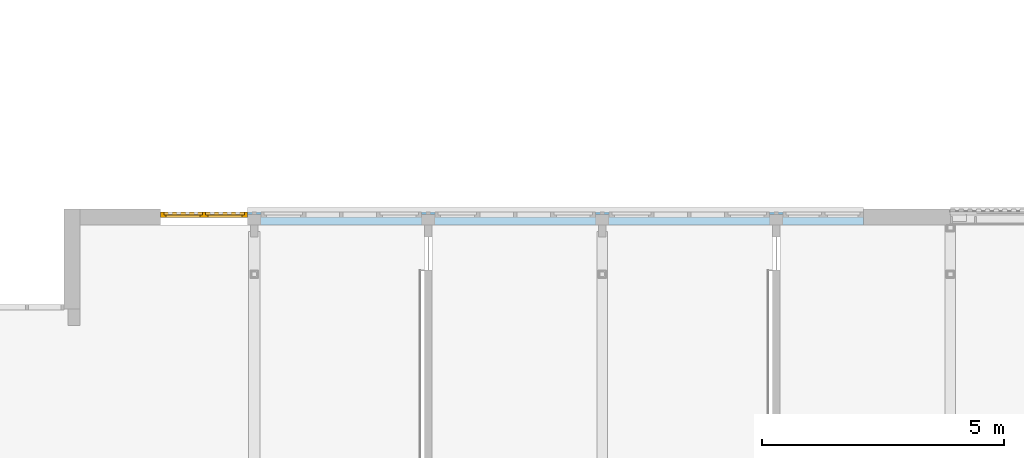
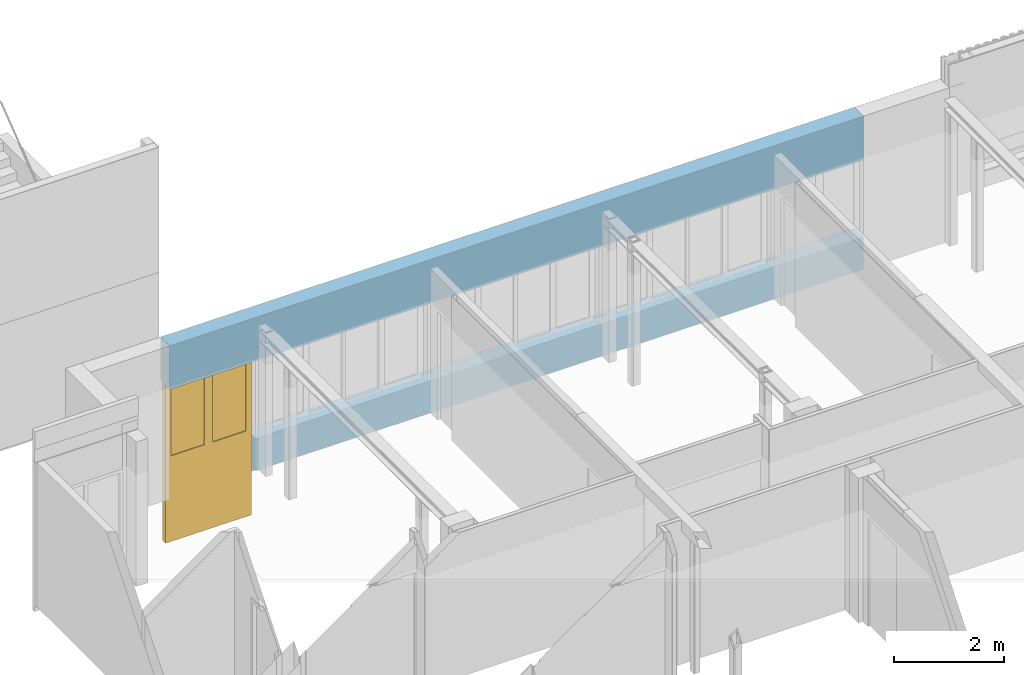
# One storey, part 32 of 99: 1 window, 5 openings, plus 1 element that does not belong to this part.
"""IFC2X3 building model written with IfcOpenShell, lengths in millimetres."""

from ifc_helpers import new_model, entity, si_unit, converted_unit, derived_unit, money_unit, direction, frame, origin_with_axes, place, context, subcontext, project, spatial, open_shell, faceted_brep, surface_model, material, type_object, element, fill, save


model = new_model("IFC2X3")

# Units and contexts
model_context = context("Model", 3, precision=0.01, world=origin_with_axes(), true_north=direction((0.0, 1.0)))
body_context = subcontext(model_context, "Body", "Model", "MODEL_VIEW")
ifc_project = project(units=[si_unit("LENGTHUNIT", "METRE", prefix="MILLI"), si_unit("AREAUNIT", "SQUARE_METRE"), si_unit("VOLUMEUNIT", "CUBIC_METRE"), converted_unit("PLANEANGLEUNIT", "DEGREE", entity("IfcPlaneAngleMeasure", 0.0174532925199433), si_unit("PLANEANGLEUNIT", "RADIAN"), dimensions=[0, 0, 0, 0, 0, 0, 0]), money_unit("EUR"), converted_unit("TIMEUNIT", "Year", entity("IfcTimeMeasure", 31557600.0), si_unit("TIMEUNIT", "SECOND"), dimensions=[0, 0, 1, 0, 0, 0, 0]), si_unit("MASSUNIT", "GRAM", prefix="KILO"), si_unit("THERMODYNAMICTEMPERATUREUNIT", "DEGREE_CELSIUS"), si_unit("LUMINOUSINTENSITYUNIT", "LUMEN"), si_unit("ENERGYUNIT", "JOULE", prefix="MEGA"), derived_unit("THERMALCONDUCTANCEUNIT", [(si_unit("POWERUNIT", "WATT"), 1), (si_unit("LENGTHUNIT", "METRE"), -1), (si_unit("THERMODYNAMICTEMPERATUREUNIT", "KELVIN"), -1)]), derived_unit("SPECIFICHEATCAPACITYUNIT", [(si_unit("ENERGYUNIT", "JOULE"), 1), (si_unit("MASSUNIT", "GRAM", prefix="KILO"), -1), (si_unit("THERMODYNAMICTEMPERATUREUNIT", "KELVIN"), -1)]), derived_unit("MASSDENSITYUNIT", [(si_unit("MASSUNIT", "GRAM", prefix="KILO"), 1), (si_unit("VOLUMEUNIT", "CUBIC_METRE"), -1)])], contexts=[model_context])

# Site, building, storey
site_placement = place(None, origin_with_axes())
site = spatial("IfcSite", under=ifc_project, at=site_placement, Name="Site", CompositionType="ELEMENT")
building_placement = place(site_placement, origin_with_axes())
building = spatial("IfcBuilding", under=site, at=building_placement, Name="Naam gebouw", CompositionType="ELEMENT")
storey_placement = place(building_placement, frame((0.0, 0.0, 7650.0), z_axis=(0.0, 0.0, 1.0), x_axis=(1.0, 0.0, 0.0)))
storey = spatial("IfcBuildingStorey", under=building, at=storey_placement, Name="2e verdieping N", CompositionType="ELEMENT", Elevation=7650.0)

# Wall, openings, window
ifc_material = material(Name="ALG - CONSTRUCTIEF")
wall_type = type_object("IfcWallType", Name="ALG - CONSTRUCTIEF 330", PredefinedType="NOTDEFINED")
wall_placement = place(storey_placement, frame((48601.18090496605, 27505.91242510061, -99.99999999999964), z_axis=(0.0, 0.0, 1.0), x_axis=(-1.0, 0.0, 0.0)))
wall = element("IfcWall", 1, at=wall_placement, inside=storey, type_object=wall_type, material=ifc_material, Name="_Wand-x", context=body_context, shape_type="Brep", body=[
    faceted_brep([(12738.68090496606, -259.9999999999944, 0.0), (12738.68090496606, -146.0000000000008, 0.0), (12738.68090496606, -146.0000000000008, 99.99999999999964), (12738.68090496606, -145.9999999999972, 820.0000000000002), (12738.68090496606, 0.0, 820.0000000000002), (12738.68090496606, -216.0000000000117, 820.0000000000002), (12738.68090496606, -259.9999999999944, 820.0000000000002), (12738.68090496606, -329.9999999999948, 820.0000000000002), (12738.68090496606, -329.9999999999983, 0.0), (0.0, -329.9999999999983, 0.0), (0.0, -145.6834109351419, 0.0), (0.0, -145.6834109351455, 99.99999999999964), (12738.68090496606, 0.0, 99.99999999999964), (0.0, 0.0, 820.0000000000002), (0.0, -329.9999999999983, 820.0000000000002), (12463.68090496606, -259.9999999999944, 820.0000000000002), (12463.68090496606, -216.0000000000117, 820.0000000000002), (1938.680904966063, -216.0000000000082, 820.0000000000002), (1938.680904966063, -259.999999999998, 820.0000000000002), (1663.680904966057, -259.999999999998, 820.0000000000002), (1663.680904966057, -216.0000000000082, 820.0000000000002), (5538.680904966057, -216.0000000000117, 820.0000000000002), (5538.680904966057, -259.999999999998, 820.0000000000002), (5263.680904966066, -259.999999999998, 820.0000000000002), (5263.680904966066, -216.0000000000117, 820.0000000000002), (8863.68090496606, -259.999999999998, 820.0000000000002), (8863.68090496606, -216.0000000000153, 820.0000000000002), (9138.680904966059, -216.0000000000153, 820.0000000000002), (9138.680904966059, -259.999999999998, 820.0000000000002), (0.0, 0.0, 99.99999999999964)], [[[0, 1, 2, 3, 4, 5, 6, 7, 8]], [[1, 0, 8, 9, 10]], [[2, 1, 10, 11]], [[3, 2, 12, 4]], [[5, 4, 13, 14, 7, 6, 15, 16], [17, 18, 19, 20], [21, 22, 23, 24], [25, 26, 27, 28]], [[6, 5, 16, 15]], [[7, 14, 9, 8]], [[13, 29, 11, 10, 9, 14]], [[2, 11, 29, 12]], [[29, 13, 4, 12]], [[18, 17, 20, 19]], [[22, 21, 24, 23]], [[26, 25, 28, 27]]]),
    faceted_brep([(12738.68090496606, -216.0000000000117, 2539.999999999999), (12738.68090496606, -259.9999999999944, 2539.999999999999), (12463.68090496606, -259.9999999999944, 2540.000000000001), (12463.68090496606, -216.0000000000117, 2540.000000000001), (12738.68090496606, 0.0, 2539.999999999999), (14538.68090496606, 0.0, 2539.999999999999), (14538.68090496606, -259.9999999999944, 2539.999999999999), (14538.68090496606, -329.9999999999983, 2539.999999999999), (0.0, -329.9999999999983, 2540.000000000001), (0.0, 0.0, 2540.000000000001), (1938.680904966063, -259.999999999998, 2540.000000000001), (1938.680904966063, -216.0000000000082, 2540.000000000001), (1663.680904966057, -216.0000000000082, 2540.000000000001), (1663.680904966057, -259.999999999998, 2540.000000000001), (5538.680904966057, -216.0000000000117, 2540.000000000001), (5263.680904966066, -216.0000000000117, 2540.000000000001), (5263.680904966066, -259.999999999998, 2540.000000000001), (5538.680904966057, -259.999999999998, 2540.000000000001), (8863.68090496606, -259.999999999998, 2540.000000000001), (9138.680904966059, -259.999999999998, 2540.000000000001), (9138.680904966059, -216.0000000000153, 2540.000000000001), (8863.68090496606, -216.0000000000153, 2540.000000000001), (0.0, 0.0, 3500.0), (14538.68090496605, 0.0, 3500.0), (14538.68090496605, -329.9999999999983, 3500.0), (0.0, -329.9999999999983, 3500.0)], [[[0, 1, 2, 3]], [[4, 5, 6, 7, 8, 9], [10, 11, 12, 13], [14, 15, 16, 17], [18, 19, 20, 21], [0, 3, 2, 1]], [[5, 4, 9, 22, 23]], [[6, 5, 23, 24, 7]], [[24, 25, 8, 7]], [[25, 22, 9, 8]], [[11, 10, 13, 12]], [[14, 17, 16, 15]], [[18, 21, 20, 19]], [[23, 22, 25, 24]]]),
])
opening_1_placement = place(wall_placement, frame((3601.180904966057, 0.0, 820.0000000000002), z_axis=(0.0, 0.0, 1.0), x_axis=(1.0, 0.0, 0.0)))
element("IfcOpeningElement", 2, at=opening_1_placement, cuts=wall, Name="_Merk-052", context=body_context, shape_type="Brep", body=[
    faceted_brep([(1937.5, -259.999999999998, 0.0), (1937.5, -259.999999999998, 1720.000000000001), (1937.5, -331.0000000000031, 1720.000000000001), (1937.5, -331.0000000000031, 0.0), (1937.5, 1.000000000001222, 0.0), (1937.5, 1.000000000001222, 1720.000000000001), (-1937.5, -259.999999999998, 1720.000000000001), (-1937.5, -331.0000000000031, 1720.000000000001), (-1937.5, 1.000000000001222, 1720.000000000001), (-1937.5, -331.0000000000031, 0.0), (-1937.5, -259.999999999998, 0.0), (-1937.5, 1.000000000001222, 0.0)], [[[0, 1, 2, 3]], [[1, 0, 4, 5]], [[6, 7, 2, 1, 5, 8]], [[7, 9, 3, 2]], [[0, 3, 9, 10, 11, 4]], [[5, 4, 11, 8]], [[6, 10, 9, 7]], [[10, 6, 8, 11]]]),
])
opening_2_placement = place(wall_placement, frame((831.8404524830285, 0.0, 820.0000000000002), z_axis=(0.0, 0.0, 1.0), x_axis=(1.0, 0.0, 0.0)))
element("IfcOpeningElement", 3, at=opening_2_placement, cuts=wall, Name="_Merk-051", context=body_context, shape_type="Brep", body=[
    faceted_brep([(831.8404524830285, -259.999999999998, 0.0), (831.8404524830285, -259.999999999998, 1720.000000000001), (831.8404524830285, -331.0000000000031, 1720.000000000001), (831.8404524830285, -331.0000000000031, 0.0), (831.8404524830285, 1.000000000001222, 0.0), (831.8404524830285, 1.000000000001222, 1720.000000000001), (-831.8404524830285, -259.999999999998, 1720.000000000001), (-831.8404524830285, -331.0000000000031, 1720.000000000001), (-831.8404524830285, 1.000000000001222, 1720.000000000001), (-831.8404524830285, -331.0000000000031, 0.0), (-831.8404524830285, -259.999999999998, 0.0), (-831.8404524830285, 1.000000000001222, 0.0)], [[[0, 1, 2, 3]], [[1, 0, 4, 5]], [[6, 7, 2, 1, 5, 8]], [[7, 9, 3, 2]], [[0, 3, 9, 10, 11, 4]], [[5, 4, 11, 8]], [[6, 10, 9, 7]], [[10, 6, 8, 11]]]),
])
opening_3_placement = place(wall_placement, frame((7201.180904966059, 0.0, 820.0000000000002), z_axis=(0.0, 0.0, 1.0), x_axis=(1.0, 0.0, 0.0)))
element("IfcOpeningElement", 4, at=opening_3_placement, cuts=wall, Name="_Merk-052", context=body_context, shape_type="Brep", body=[
    faceted_brep([(1937.5, -259.999999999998, 0.0), (1937.5, -259.999999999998, 1720.000000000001), (1937.5, -331.0000000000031, 1720.000000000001), (1937.5, -331.0000000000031, 0.0), (1937.5, 1.000000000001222, 0.0), (1937.5, 1.000000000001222, 1720.000000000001), (-1937.5, -259.999999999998, 1720.000000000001), (-1937.5, -331.0000000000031, 1720.000000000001), (-1937.5, 1.000000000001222, 1720.000000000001), (-1937.5, -331.0000000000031, 0.0), (-1937.5, -259.999999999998, 0.0), (-1937.5, 1.000000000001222, 0.0)], [[[0, 1, 2, 3]], [[1, 0, 4, 5]], [[6, 7, 2, 1, 5, 8]], [[7, 9, 3, 2]], [[0, 3, 9, 10, 11, 4]], [[5, 4, 11, 8]], [[6, 10, 9, 7]], [[10, 6, 8, 11]]]),
])
opening_4_placement = place(wall_placement, frame((13638.68090496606, 0.0, -960.0000000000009), z_axis=(0.0, 0.0, 1.0), x_axis=(1.0, 0.0, 0.0)))
opening_4 = element("IfcOpeningElement", 5, at=opening_4_placement, cuts=wall, Name="_Merk-051", context=body_context, shape_type="Brep", body=[
    faceted_brep([(899.9999999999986, -259.9999999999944, -1060.0), (899.9999999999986, -259.9999999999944, 3500.0), (899.9999999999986, -330.9999999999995, 3500.0), (899.9999999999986, -330.9999999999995, -1060.0), (899.9999999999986, 1.000000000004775, -1060.0), (899.9999999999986, 1.000000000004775, 3500.0), (-899.9999999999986, -259.9999999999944, 3500.0), (-899.9999999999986, -330.9999999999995, 3500.0), (-899.9999999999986, 1.000000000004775, 3500.0), (-899.9999999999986, -330.9999999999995, -1060.0), (-899.9999999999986, -259.9999999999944, -1060.0), (-899.9999999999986, 1.000000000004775, -1060.0)], [[[0, 1, 2, 3]], [[1, 0, 4, 5]], [[6, 7, 2, 1, 5, 8]], [[7, 9, 3, 2]], [[0, 3, 9, 10, 11, 4]], [[5, 4, 11, 8]], [[6, 10, 9, 7]], [[10, 6, 8, 11]]]),
])
opening_5_placement = place(wall_placement, frame((10801.18090496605, 0.0, 820.0000000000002), z_axis=(0.0, 0.0, 1.0), x_axis=(1.0, 0.0, 0.0)))
element("IfcOpeningElement", 6, at=opening_5_placement, cuts=wall, Name="_Merk-052", context=body_context, shape_type="Brep", body=[
    faceted_brep([(1937.5, -259.9999999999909, 0.0), (1937.5, -259.9999999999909, 1720.000000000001), (1937.5, -330.999999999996, 1720.000000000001), (1937.5, -330.999999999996, 0.0), (1937.5, 1.000000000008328, 0.0), (1937.5, 1.000000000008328, 1720.000000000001), (-1937.5, -259.9999999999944, 1720.000000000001), (-1937.5, -330.9999999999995, 1720.000000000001), (-1937.5, 1.000000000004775, 1720.000000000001), (-1937.5, -330.9999999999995, 0.0), (-1937.5, -259.9999999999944, 0.0), (-1937.5, 1.000000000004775, 0.0)], [[[0, 1, 2, 3]], [[1, 0, 4, 5]], [[6, 7, 2, 1, 5, 8]], [[7, 9, 3, 2]], [[0, 3, 9, 10, 11, 4]], [[5, 4, 11, 8]], [[6, 10, 9, 7]], [[10, 6, 8, 11]]]),
])
window_style = type_object("IfcWindowStyle", Name="R2 bl ol 26", ConstructionType="NOTDEFINED", OperationType="USERDEFINED", ParameterTakesPrecedence=False, Sizeable=False)
window_placement = place(opening_4_placement, frame((-899.9999999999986, 0.0, 0.0), z_axis=(0.0, 0.0, 1.0), x_axis=(1.0, 0.0, 0.0)))
window = element("IfcWindow", 7, at=window_placement, inside=storey, type_object=window_style, Name="_Merk-051", ObjectType="WINDOW", OverallHeight=3500.0, OverallWidth=1800.0, context=body_context, shape_type="SurfaceModel", body=[
    faceted_brep([(1750.0, -145.9999999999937, 3433.0), (1750.0, -199.9999999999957, 3433.0), (1732.999999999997, -199.9999999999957, 3433.0), (1732.999999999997, -259.9999999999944, 3433.0), (1799.999999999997, -259.9999999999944, 3433.0), (1799.999999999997, -145.9999999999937, 3433.0), (1750.0, -145.9999999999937, 1830.000000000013), (1750.0, -199.9999999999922, 1830.000000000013), (1732.999999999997, -199.9999999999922, 1847.000000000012), (1732.999999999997, -199.9999999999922, 1830.000000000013), (1732.999999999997, -259.9999999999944, 1847.000000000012), (1732.999999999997, -259.9999999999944, 1780.000000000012), (1732.999999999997, -259.9999999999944, 67.00000000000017), (1799.999999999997, -259.9999999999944, 67.00000000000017), (1799.999999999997, -145.9999999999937, 67.00000000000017), (1732.999999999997, -145.9999999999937, 67.00000000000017), (1732.999999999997, -145.9999999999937, 1780.000000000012), (1732.999999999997, -145.9999999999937, 1830.000000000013)], [[[0, 1, 2, 3, 4, 5]], [[1, 0, 6, 7]], [[8, 2, 1, 7, 9]], [[2, 8, 10, 3]], [[10, 11, 12, 13, 4, 3]], [[5, 4, 13, 14]], [[6, 0, 5, 14, 15, 16, 17]], [[6, 17, 9, 7]], [[9, 17, 16, 11, 10, 8]], [[15, 12, 11, 16]], [[14, 13, 12, 15]]]),
    faceted_brep([(67.00000000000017, -199.9999999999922, 3433.0), (49.99999999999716, -199.9999999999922, 3433.0), (49.99999999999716, -145.9999999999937, 3433.0), (0.0, -145.9999999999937, 3433.0), (0.0, -259.9999999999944, 3433.0), (67.00000000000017, -259.9999999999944, 3433.0), (67.00000000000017, -199.9999999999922, 1847.000000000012), (67.00000000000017, -199.9999999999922, 1830.000000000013), (49.99999999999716, -199.9999999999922, 1830.000000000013), (49.99999999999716, -145.9999999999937, 1830.000000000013), (67.00000000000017, -145.9999999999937, 1830.000000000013), (67.00000000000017, -145.9999999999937, 1780.000000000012), (67.00000000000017, -145.9999999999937, 67.00000000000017), (0.0, -145.9999999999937, 67.00000000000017), (0.0, -259.9999999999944, 67.00000000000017), (67.00000000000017, -259.9999999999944, 67.00000000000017), (67.00000000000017, -259.9999999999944, 1780.000000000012), (67.00000000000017, -259.9999999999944, 1847.000000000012)], [[[0, 1, 2, 3, 4, 5]], [[1, 0, 6, 7, 8]], [[9, 2, 1, 8]], [[9, 10, 11, 12, 13, 3, 2]], [[13, 14, 4, 3]], [[14, 15, 16, 17, 5, 4]], [[6, 0, 5, 17]], [[7, 6, 17, 16, 11, 10]], [[10, 9, 8, 7]], [[11, 16, 15, 12]], [[12, 15, 14, 13]]]),
    faceted_brep([(933.5000000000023, -199.9999999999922, 3433.0), (916.4999999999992, -199.9999999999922, 3433.0), (916.4999999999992, -145.9999999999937, 3433.0), (883.499999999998, -145.9999999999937, 3433.0), (883.499999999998, -199.9999999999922, 3433.0), (866.500000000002, -199.9999999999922, 3433.0), (866.500000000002, -259.9999999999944, 3433.0), (933.5000000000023, -259.9999999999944, 3433.0), (933.5000000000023, -199.9999999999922, 1847.000000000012), (933.4999999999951, -199.9999999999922, 1830.000000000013), (916.4999999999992, -199.9999999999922, 1830.000000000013), (916.4999999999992, -145.9999999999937, 1830.000000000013), (933.5000000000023, -145.9999999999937, 1830.000000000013), (933.5000000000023, -145.9999999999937, 1780.000000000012), (933.5000000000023, -145.9999999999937, 67.00000000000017), (866.500000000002, -145.9999999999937, 67.00000000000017), (866.500000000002, -145.9999999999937, 1780.000000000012), (866.500000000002, -145.9999999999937, 1830.000000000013), (883.499999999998, -145.9999999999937, 1830.000000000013), (883.499999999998, -199.9999999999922, 1830.000000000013), (866.500000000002, -199.9999999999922, 1847.000000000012), (866.500000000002, -199.9999999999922, 1830.000000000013), (866.500000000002, -259.9999999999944, 1847.000000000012), (933.5000000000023, -259.9999999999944, 1780.000000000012), (933.5000000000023, -259.9999999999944, 1847.000000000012), (866.500000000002, -259.9999999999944, 1780.000000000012), (866.500000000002, -259.9999999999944, 67.00000000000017), (933.5000000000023, -259.9999999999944, 67.00000000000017)], [[[0, 1, 2, 3, 4, 5, 6, 7]], [[1, 0, 8, 9, 10]], [[11, 2, 1, 10]], [[11, 12, 13, 14, 15, 16, 17, 18, 3, 2]], [[4, 3, 18, 19]], [[20, 5, 4, 19, 21]], [[5, 20, 22, 6]], [[23, 24, 7, 6, 22, 25, 26, 27]], [[8, 0, 7, 24]], [[9, 8, 24, 23, 13, 12]], [[12, 11, 10, 9]], [[13, 23, 27, 14]], [[14, 27, 26, 15]], [[15, 26, 25, 16]], [[21, 17, 16, 25, 22, 20]], [[18, 17, 21, 19]]]),
    faceted_brep([(866.500000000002, -199.9999999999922, 1847.000000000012), (67.00000000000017, -199.9999999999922, 1847.000000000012), (67.00000000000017, -259.9999999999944, 1847.000000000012), (866.500000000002, -259.9999999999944, 1847.000000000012), (67.00000000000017, -199.9999999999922, 1830.000000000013), (866.500000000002, -199.9999999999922, 1830.000000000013), (67.00000000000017, -145.9999999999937, 1830.000000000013), (67.00000000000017, -145.9999999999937, 1780.000000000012), (67.00000000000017, -259.9999999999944, 1780.000000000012), (866.500000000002, -259.9999999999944, 1780.000000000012), (866.500000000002, -145.9999999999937, 1780.000000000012), (866.500000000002, -145.9999999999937, 1830.000000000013)], [[[0, 1, 2, 3]], [[4, 1, 0, 5]], [[4, 6, 7, 8, 2, 1]], [[9, 3, 2, 8]], [[5, 0, 3, 9, 10, 11]], [[11, 6, 4, 5]], [[6, 11, 10, 7]], [[10, 9, 8, 7]]]),
    faceted_brep([(1732.999999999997, -199.9999999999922, 1847.000000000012), (933.5000000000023, -199.9999999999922, 1847.000000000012), (933.5000000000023, -259.9999999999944, 1847.000000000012), (1732.999999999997, -259.9999999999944, 1847.000000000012), (933.4999999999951, -199.9999999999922, 1830.000000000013), (1732.999999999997, -199.9999999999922, 1830.000000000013), (933.5000000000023, -145.9999999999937, 1830.000000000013), (933.5000000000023, -145.9999999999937, 1780.000000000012), (933.5000000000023, -259.9999999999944, 1780.000000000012), (1732.999999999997, -259.9999999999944, 1780.000000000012), (1732.999999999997, -145.9999999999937, 1780.000000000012), (1732.999999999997, -145.9999999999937, 1830.000000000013)], [[[0, 1, 2, 3]], [[4, 1, 0, 5]], [[4, 6, 7, 8, 2, 1]], [[2, 8, 9, 3]], [[5, 0, 3, 9, 10, 11]], [[11, 6, 4, 5]], [[6, 11, 10, 7]], [[10, 9, 8, 7]]]),
    faceted_brep([(1750.0, -145.9999999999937, 3433.0), (1750.0, -145.9999999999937, 3449.999999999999), (916.4999999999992, -145.9999999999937, 3449.999999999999), (916.4999999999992, -145.9999999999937, 3433.0), (883.499999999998, -145.9999999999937, 3433.0), (883.499999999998, -145.9999999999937, 3449.999999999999), (49.99999999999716, -145.9999999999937, 3449.999999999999), (49.99999999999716, -145.9999999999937, 3433.0), (0.0, -145.9999999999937, 3433.0), (0.0, -145.9999999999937, 3500.0), (1799.999999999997, -145.9999999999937, 3500.0), (1799.999999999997, -145.9999999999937, 3433.0), (1750.0, -199.9999999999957, 3433.0), (1750.0, -199.9999999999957, 3449.999999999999), (916.4999999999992, -199.9999999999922, 3449.999999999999), (916.4999999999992, -199.9999999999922, 3433.0), (933.5000000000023, -199.9999999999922, 3433.0), (933.5000000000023, -259.9999999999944, 3433.0), (866.500000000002, -259.9999999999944, 3433.0), (866.500000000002, -199.9999999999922, 3433.0), (883.499999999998, -199.9999999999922, 3433.0), (883.499999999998, -199.9999999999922, 3449.999999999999), (49.99999999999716, -199.9999999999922, 3449.999999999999), (49.99999999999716, -199.9999999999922, 3433.0), (67.00000000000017, -199.9999999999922, 3433.0), (67.00000000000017, -259.9999999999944, 3433.0), (0.0, -259.9999999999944, 3433.0), (0.0, -259.9999999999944, 3500.0), (1799.999999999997, -259.9999999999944, 3500.0), (1799.999999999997, -259.9999999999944, 3433.0), (1732.999999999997, -259.9999999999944, 3433.0), (1732.999999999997, -199.9999999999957, 3433.0)], [[[0, 1, 2, 3, 4, 5, 6, 7, 8, 9, 10, 11]], [[1, 0, 12, 13]], [[2, 1, 13, 14]], [[3, 2, 14, 15]], [[15, 16, 17, 18, 19, 20, 4, 3]], [[5, 4, 20, 21]], [[6, 5, 21, 22]], [[7, 6, 22, 23]], [[23, 24, 25, 26, 8, 7]], [[8, 26, 27, 9]], [[9, 27, 28, 10]], [[10, 28, 29, 11]], [[12, 0, 11, 29, 30, 31]], [[16, 15, 14, 13, 12, 31]], [[16, 31, 30, 17]], [[18, 17, 30, 29, 28, 27, 26, 25]], [[24, 19, 18, 25]], [[24, 23, 22, 21, 20, 19]]]),
    faceted_brep([(1732.999999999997, -259.9999999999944, 67.00000000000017), (1799.999999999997, -259.9999999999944, 67.00000000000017), (1799.999999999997, -145.9999999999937, 67.00000000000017), (1732.999999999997, -145.9999999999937, 67.00000000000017), (933.5000000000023, -259.9999999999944, 67.00000000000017), (866.500000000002, -259.9999999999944, 67.00000000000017), (67.00000000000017, -259.9999999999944, 67.00000000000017), (0.0, -259.9999999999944, 67.00000000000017), (0.0, -259.9999999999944, 0.0), (1799.999999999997, -259.9999999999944, 0.0), (1799.999999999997, -145.9999999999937, 0.0), (0.0, -145.9999999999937, 0.0), (0.0, -145.9999999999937, 67.00000000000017), (67.00000000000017, -145.9999999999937, 67.00000000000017), (866.500000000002, -145.9999999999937, 67.00000000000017), (933.5000000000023, -145.9999999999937, 67.00000000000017)], [[[0, 1, 2, 3]], [[0, 4, 5, 6, 7, 8, 9, 1]], [[1, 9, 10, 2]], [[3, 2, 10, 11, 12, 13, 14, 15]], [[4, 0, 3, 15]], [[5, 4, 15, 14]], [[6, 5, 14, 13]], [[7, 6, 13, 12]], [[8, 7, 12, 11]], [[9, 8, 11, 10]]]),
    faceted_brep([(1683.0, -199.9999999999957, 3382.999999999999), (1750.0, -199.9999999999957, 3382.999999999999), (1750.0, -145.9999999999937, 3382.999999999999), (1683.0, -145.9999999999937, 3382.999999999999), (1683.0, -199.9999999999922, 1897.000000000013), (1750.0, -199.9999999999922, 1897.000000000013), (1750.0, -145.9999999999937, 1897.000000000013), (1683.0, -145.9999999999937, 1897.000000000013)], [[[0, 1, 2, 3]], [[0, 4, 5, 1]], [[1, 5, 6, 2]], [[3, 2, 6, 7]], [[4, 0, 3, 7]], [[5, 4, 7, 6]]]),
    faceted_brep([(983.4999999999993, -199.9999999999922, 1897.000000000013), (916.4999999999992, -199.9999999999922, 1897.000000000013), (916.4999999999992, -145.9999999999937, 1897.000000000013), (983.4999999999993, -145.9999999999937, 1897.000000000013), (983.4999999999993, -199.9999999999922, 3382.999999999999), (916.4999999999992, -199.9999999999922, 3382.999999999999), (916.4999999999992, -145.9999999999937, 3382.999999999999), (983.4999999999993, -145.9999999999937, 3382.999999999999)], [[[0, 1, 2, 3]], [[0, 4, 5, 1]], [[1, 5, 6, 2]], [[3, 2, 6, 7]], [[4, 0, 3, 7]], [[5, 4, 7, 6]]]),
    faceted_brep([(916.4999999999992, -199.9999999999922, 1830.000000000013), (916.4999999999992, -199.9999999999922, 1897.000000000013), (916.4999999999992, -145.9999999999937, 1897.000000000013), (916.4999999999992, -145.9999999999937, 1830.000000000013), (1750.0, -199.9999999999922, 1830.000000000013), (1750.0, -199.9999999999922, 1897.000000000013), (1683.0, -199.9999999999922, 1897.000000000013), (983.4999999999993, -199.9999999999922, 1897.000000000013), (983.4999999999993, -145.9999999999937, 1897.000000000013), (1683.0, -145.9999999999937, 1897.000000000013), (1750.0, -145.9999999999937, 1897.000000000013), (1750.0, -145.9999999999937, 1830.000000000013)], [[[0, 1, 2, 3]], [[0, 4, 5, 6, 7, 1]], [[1, 7, 8, 2]], [[3, 2, 8, 9, 10, 11]], [[4, 0, 3, 11]], [[5, 4, 11, 10]], [[6, 5, 10, 9]], [[7, 6, 9, 8]]]),
    faceted_brep([(1750.0, -199.9999999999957, 3449.999999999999), (1750.0, -199.9999999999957, 3382.999999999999), (1750.0, -145.9999999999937, 3382.999999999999), (1750.0, -145.9999999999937, 3449.999999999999), (916.4999999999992, -199.9999999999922, 3449.999999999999), (916.4999999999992, -199.9999999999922, 3382.999999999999), (983.4999999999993, -199.9999999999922, 3382.999999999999), (1683.0, -199.9999999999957, 3382.999999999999), (1683.0, -145.9999999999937, 3382.999999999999), (983.4999999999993, -145.9999999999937, 3382.999999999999), (916.4999999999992, -145.9999999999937, 3382.999999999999), (916.4999999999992, -145.9999999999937, 3449.999999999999)], [[[0, 1, 2, 3]], [[0, 4, 5, 6, 7, 1]], [[1, 7, 8, 2]], [[3, 2, 8, 9, 10, 11]], [[4, 0, 3, 11]], [[5, 4, 11, 10]], [[6, 5, 10, 9]], [[7, 6, 9, 8]]]),
    surface_model("IfcShellBasedSurfaceModel", [(1683.0, -182.9999999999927, 1897.000000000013), (1683.0, -182.9999999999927, 3382.999999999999), (983.4999999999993, -182.9999999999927, 3382.999999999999), (983.4999999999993, -182.9999999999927, 1897.000000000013)], [open_shell([[[0, 1, 2, 3]]])]),
    surface_model("IfcShellBasedSurfaceModel", [(1683.0, -162.9999999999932, 1897.000000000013), (983.4999999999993, -162.9999999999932, 1897.000000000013), (983.4999999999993, -162.9999999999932, 3382.999999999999), (1683.0, -162.9999999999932, 3382.999999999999)], [open_shell([[[0, 1, 2, 3]]])]),
    faceted_brep([(816.4999999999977, -199.9999999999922, 3382.999999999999), (883.499999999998, -199.9999999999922, 3382.999999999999), (883.499999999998, -145.9999999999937, 3382.999999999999), (816.4999999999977, -145.9999999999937, 3382.999999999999), (816.4999999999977, -199.9999999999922, 1897.000000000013), (883.499999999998, -199.9999999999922, 1897.000000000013), (883.499999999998, -145.9999999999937, 1897.000000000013), (816.4999999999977, -145.9999999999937, 1897.000000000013)], [[[0, 1, 2, 3]], [[0, 4, 5, 1]], [[1, 5, 6, 2]], [[3, 2, 6, 7]], [[4, 0, 3, 7]], [[5, 4, 7, 6]]]),
    faceted_brep([(116.9999999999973, -199.9999999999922, 1897.000000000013), (49.99999999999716, -199.9999999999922, 1897.000000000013), (49.99999999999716, -145.9999999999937, 1897.000000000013), (116.9999999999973, -145.9999999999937, 1897.000000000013), (116.9999999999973, -199.9999999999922, 3382.999999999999), (49.99999999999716, -199.9999999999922, 3382.999999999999), (49.99999999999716, -145.9999999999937, 3382.999999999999), (116.9999999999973, -145.9999999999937, 3382.999999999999)], [[[0, 1, 2, 3]], [[0, 4, 5, 1]], [[1, 5, 6, 2]], [[3, 2, 6, 7]], [[4, 0, 3, 7]], [[5, 4, 7, 6]]]),
    faceted_brep([(49.99999999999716, -199.9999999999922, 1830.000000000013), (49.99999999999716, -199.9999999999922, 1897.000000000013), (49.99999999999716, -145.9999999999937, 1897.000000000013), (49.99999999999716, -145.9999999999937, 1830.000000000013), (883.499999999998, -199.9999999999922, 1830.000000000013), (883.499999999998, -199.9999999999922, 1897.000000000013), (816.4999999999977, -199.9999999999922, 1897.000000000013), (116.9999999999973, -199.9999999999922, 1897.000000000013), (116.9999999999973, -145.9999999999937, 1897.000000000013), (816.4999999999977, -145.9999999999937, 1897.000000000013), (883.499999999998, -145.9999999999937, 1897.000000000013), (883.499999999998, -145.9999999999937, 1830.000000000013)], [[[0, 1, 2, 3]], [[0, 4, 5, 6, 7, 1]], [[1, 7, 8, 2]], [[3, 2, 8, 9, 10, 11]], [[4, 0, 3, 11]], [[5, 4, 11, 10]], [[6, 5, 10, 9]], [[7, 6, 9, 8]]]),
    faceted_brep([(883.499999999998, -199.9999999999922, 3449.999999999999), (883.499999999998, -199.9999999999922, 3382.999999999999), (883.499999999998, -145.9999999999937, 3382.999999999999), (883.499999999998, -145.9999999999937, 3449.999999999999), (49.99999999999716, -199.9999999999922, 3449.999999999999), (49.99999999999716, -199.9999999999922, 3382.999999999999), (116.9999999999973, -199.9999999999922, 3382.999999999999), (816.4999999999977, -199.9999999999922, 3382.999999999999), (816.4999999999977, -145.9999999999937, 3382.999999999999), (116.9999999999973, -145.9999999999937, 3382.999999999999), (49.99999999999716, -145.9999999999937, 3382.999999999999), (49.99999999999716, -145.9999999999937, 3449.999999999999)], [[[0, 1, 2, 3]], [[0, 4, 5, 6, 7, 1]], [[1, 7, 8, 2]], [[3, 2, 8, 9, 10, 11]], [[4, 0, 3, 11]], [[5, 4, 11, 10]], [[6, 5, 10, 9]], [[7, 6, 9, 8]]]),
    surface_model("IfcShellBasedSurfaceModel", [(816.4999999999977, -182.9999999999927, 1897.000000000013), (816.4999999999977, -182.9999999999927, 3382.999999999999), (116.9999999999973, -182.9999999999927, 3382.999999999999), (116.9999999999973, -182.9999999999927, 1897.000000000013)], [open_shell([[[0, 1, 2, 3]]])]),
    surface_model("IfcShellBasedSurfaceModel", [(816.4999999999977, -162.9999999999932, 1897.000000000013), (116.9999999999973, -162.9999999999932, 1897.000000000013), (116.9999999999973, -162.9999999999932, 3382.999999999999), (816.4999999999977, -162.9999999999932, 3382.999999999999)], [open_shell([[[0, 1, 2, 3]]])]),
    faceted_brep([(1732.999999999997, -199.9999999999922, 67.00000000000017), (933.4999999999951, -199.9999999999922, 67.00000000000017), (933.5000000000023, -145.9999999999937, 67.00000000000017), (1732.999999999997, -145.9999999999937, 67.00000000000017), (1732.999999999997, -199.9999999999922, 1780.000000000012), (933.4999999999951, -199.9999999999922, 1780.000000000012), (933.5000000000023, -145.9999999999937, 1780.000000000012), (1732.999999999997, -145.9999999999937, 1780.000000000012)], [[[0, 1, 2, 3]], [[0, 4, 5, 1]], [[1, 5, 6, 2]], [[3, 2, 6, 7]], [[4, 0, 3, 7]], [[5, 4, 7, 6]]]),
    faceted_brep([(866.500000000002, -199.9999999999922, 67.00000000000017), (67.00000000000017, -199.9999999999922, 67.00000000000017), (67.00000000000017, -145.9999999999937, 67.00000000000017), (866.500000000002, -145.9999999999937, 67.00000000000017), (866.500000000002, -199.9999999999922, 1780.000000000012), (67.00000000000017, -199.9999999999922, 1780.000000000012), (67.00000000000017, -145.9999999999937, 1780.000000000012), (866.500000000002, -145.9999999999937, 1780.000000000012)], [[[0, 1, 2, 3]], [[0, 4, 5, 1]], [[1, 5, 6, 2]], [[3, 2, 6, 7]], [[4, 0, 3, 7]], [[5, 4, 7, 6]]]),
])
fill(opening_4, window)

save(model, "model.ifc")
